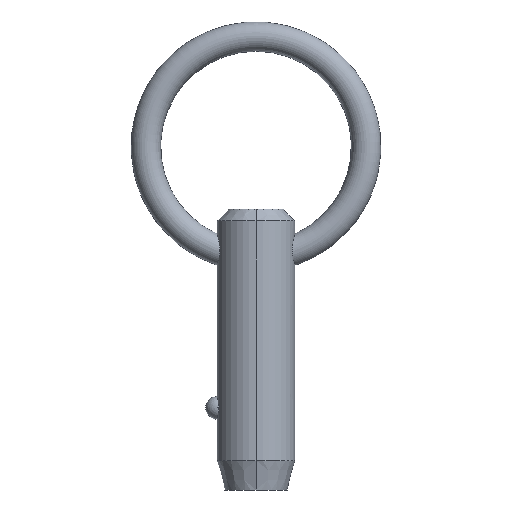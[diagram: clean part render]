
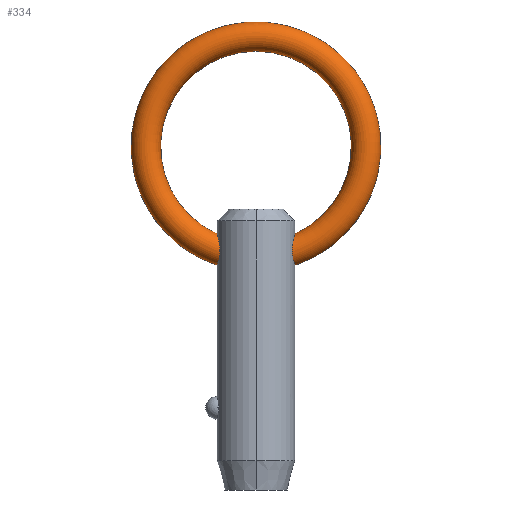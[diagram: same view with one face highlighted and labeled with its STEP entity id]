
A CAD part, left-side view. The second image highlights one B-rep face of the part: STEP entity #334.
In plain terms, the highlighted toroidal (fillet/blend) face has major radius 11.2 mm and minor radius 1.5 mm.
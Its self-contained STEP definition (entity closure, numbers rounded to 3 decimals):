
#4 = CARTESIAN_POINT ( 'NONE',  ( -0.99, 3.84, 16.092 ) ) ;
#11 = CARTESIAN_POINT ( 'NONE',  ( -1.508, 3.667, 14.697 ) ) ;
#15 = ORIENTED_EDGE ( 'NONE', *, *, #311, .F. ) ;
#16 = CARTESIAN_POINT ( 'NONE',  ( -0.406, 3.945, 13.383 ) ) ;
#18 = CARTESIAN_POINT ( 'NONE',  ( -0.785, 3.891, 13.527 ) ) ;
#20 = CARTESIAN_POINT ( 'NONE',  ( 0., 0., 25.4 ) ) ;
#25 = VERTEX_POINT ( 'NONE', #248 ) ;
#39 = EDGE_CURVE ( 'NONE', #204, #25, #76, .T. ) ;
#56 = CARTESIAN_POINT ( 'NONE',  ( 0., 0., 25.4 ) ) ;
#57 = CARTESIAN_POINT ( 'NONE',  ( 0., -3.965, 13.335 ) ) ;
#64 = AXIS2_PLACEMENT_3D ( 'NONE', #20, #272, #424 ) ;
#76 = B_SPLINE_CURVE_WITH_KNOTS ( 'NONE', 3,
 ( #477, #247, #480, #161, #285, #405, #4, #287, #81, #162, #448, #11, #135, #416, #332, #169, #336, #380, #18, #450, #16, #99, #495, #94 ),
 .UNSPECIFIED., .F., .F.,
 ( 4, 2, 2, 2, 2, 2, 2, 2, 2, 2, 2, 4 ),
 ( 0.006, 0.006, 0.007, 0.007, 0.007, 0.008, 0.009, 0.009, 0.009, 0.01, 0.01, 0.01 ),
 .UNSPECIFIED. ) ;
#81 = CARTESIAN_POINT ( 'NONE',  ( -1.29, 3.75, 15.686 ) ) ;
#85 = ORIENTED_EDGE ( 'NONE', *, *, #39, .F. ) ;
#93 = CIRCLE ( 'NONE', #314, 12.7 ) ;
#94 = CARTESIAN_POINT ( 'NONE',  ( 0., 3.965, 13.335 ) ) ;
#97 = CARTESIAN_POINT ( 'NONE',  ( -0.41, -3.948, 13.374 ) ) ;
#99 = CARTESIAN_POINT ( 'NONE',  ( -0.206, 3.961, 13.345 ) ) ;
#101 = CARTESIAN_POINT ( 'NONE',  ( -1.186, -3.786, 15.86 ) ) ;
#114 = B_SPLINE_CURVE_WITH_KNOTS ( 'NONE', 3,
 ( #57, #291, #97, #218, #181, #452, #146, #460, #389, #425, #225, #345, #185, #462, #101, #501, #273, #143, #428, #184, #222, #497 ),
 .UNSPECIFIED., .F., .F.,
 ( 4, 2, 2, 2, 2, 2, 2, 2, 2, 2, 4 ),
 ( 0.009, 0.01, 0.01, 0.011, 0.011, 0.012, 0.012, 0.013, 0.013, 0.014, 0.014 ),
 .UNSPECIFIED. ) ;
#135 = CARTESIAN_POINT ( 'NONE',  ( -1.481, 3.679, 14.491 ) ) ;
#143 = CARTESIAN_POINT ( 'NONE',  ( -0.498, -3.935, 16.444 ) ) ;
#146 = CARTESIAN_POINT ( 'NONE',  ( -1.229, -3.77, 13.939 ) ) ;
#161 = CARTESIAN_POINT ( 'NONE',  ( -0.678, 3.908, 16.349 ) ) ;
#162 = CARTESIAN_POINT ( 'NONE',  ( -1.442, 3.694, 15.306 ) ) ;
#167 = DIRECTION ( 'NONE',  ( 0., 0., -1. ) ) ;
#169 = CARTESIAN_POINT ( 'NONE',  ( -1.23, 3.77, 13.94 ) ) ;
#181 = CARTESIAN_POINT ( 'NONE',  ( -0.957, -3.85, 13.641 ) ) ;
#184 = CARTESIAN_POINT ( 'NONE',  ( -0.206, -3.961, 16.534 ) ) ;
#185 = CARTESIAN_POINT ( 'NONE',  ( -1.441, -3.695, 15.308 ) ) ;
#189 = EDGE_CURVE ( 'NONE', #485, #261, #114, .T. ) ;
#204 = VERTEX_POINT ( 'NONE', #235 ) ;
#210 = DIRECTION ( 'NONE',  ( 0., 0., -1. ) ) ;
#218 = CARTESIAN_POINT ( 'NONE',  ( -0.788, -3.891, 13.528 ) ) ;
#222 = CARTESIAN_POINT ( 'NONE',  ( -0.102, -3.965, 16.547 ) ) ;
#225 = CARTESIAN_POINT ( 'NONE',  ( -1.508, -3.667, 14.697 ) ) ;
#235 = CARTESIAN_POINT ( 'NONE',  ( 0., 3.965, 16.547 ) ) ;
#240 = ORIENTED_EDGE ( 'NONE', *, *, #463, .T. ) ;
#247 = CARTESIAN_POINT ( 'NONE',  ( -0.206, 3.965, 16.547 ) ) ;
#248 = CARTESIAN_POINT ( 'NONE',  ( 0., 3.965, 13.335 ) ) ;
#261 = VERTEX_POINT ( 'NONE', #381 ) ;
#272 = DIRECTION ( 'NONE',  ( 1., 0., 0. ) ) ;
#273 = CARTESIAN_POINT ( 'NONE',  ( -0.77, -3.894, 16.3 ) ) ;
#285 = CARTESIAN_POINT ( 'NONE',  ( -0.763, 3.892, 16.291 ) ) ;
#287 = CARTESIAN_POINT ( 'NONE',  ( -1.186, 3.786, 15.86 ) ) ;
#291 = CARTESIAN_POINT ( 'NONE',  ( -0.205, -3.965, 13.335 ) ) ;
#298 = TOROIDAL_SURFACE ( 'NONE', #402, 11.2, 1.5 ) ;
#303 = CIRCLE ( 'NONE', #64, 9.7 ) ;
#311 = EDGE_CURVE ( 'NONE', #25, #485, #93, .T. ) ;
#314 = AXIS2_PLACEMENT_3D ( 'NONE', #414, #327, #210 ) ;
#320 = FACE_OUTER_BOUND ( 'NONE', #362, .T. ) ;
#327 = DIRECTION ( 'NONE',  ( 1., 0., 0. ) ) ;
#330 = DIRECTION ( 'NONE',  ( 1., 0., 0. ) ) ;
#332 = CARTESIAN_POINT ( 'NONE',  ( -1.336, 3.734, 14.112 ) ) ;
#334 = ADVANCED_FACE ( 'NONE', ( #320 ), #298, .T. ) ;
#336 = CARTESIAN_POINT ( 'NONE',  ( -1.167, 3.79, 13.859 ) ) ;
#345 = CARTESIAN_POINT ( 'NONE',  ( -1.488, -3.675, 15.105 ) ) ;
#362 = EDGE_LOOP ( 'NONE', ( #15, #85, #240, #473 ) ) ;
#380 = CARTESIAN_POINT ( 'NONE',  ( -0.958, 3.85, 13.643 ) ) ;
#381 = CARTESIAN_POINT ( 'NONE',  ( 0., -3.965, 16.547 ) ) ;
#389 = CARTESIAN_POINT ( 'NONE',  ( -1.379, -3.718, 14.203 ) ) ;
#392 = CARTESIAN_POINT ( 'NONE',  ( 0., -3.965, 13.335 ) ) ;
#402 = AXIS2_PLACEMENT_3D ( 'NONE', #56, #330, #167 ) ;
#405 = CARTESIAN_POINT ( 'NONE',  ( -0.919, 3.858, 16.163 ) ) ;
#414 = CARTESIAN_POINT ( 'NONE',  ( 0., 0., 25.4 ) ) ;
#416 = CARTESIAN_POINT ( 'NONE',  ( -1.379, 3.718, 14.202 ) ) ;
#424 = DIRECTION ( 'NONE',  ( 0., 0., -1. ) ) ;
#425 = CARTESIAN_POINT ( 'NONE',  ( -1.48, -3.679, 14.489 ) ) ;
#428 = CARTESIAN_POINT ( 'NONE',  ( -0.403, -3.946, 16.482 ) ) ;
#448 = CARTESIAN_POINT ( 'NONE',  ( -1.488, 3.675, 15.109 ) ) ;
#450 = CARTESIAN_POINT ( 'NONE',  ( -0.503, 3.934, 13.412 ) ) ;
#452 = CARTESIAN_POINT ( 'NONE',  ( -1.168, -3.79, 13.859 ) ) ;
#460 = CARTESIAN_POINT ( 'NONE',  ( -1.335, -3.734, 14.11 ) ) ;
#462 = CARTESIAN_POINT ( 'NONE',  ( -1.29, -3.75, 15.685 ) ) ;
#463 = EDGE_CURVE ( 'NONE', #204, #261, #303, .T. ) ;
#473 = ORIENTED_EDGE ( 'NONE', *, *, #189, .F. ) ;
#477 = CARTESIAN_POINT ( 'NONE',  ( 0., 3.965, 16.547 ) ) ;
#480 = CARTESIAN_POINT ( 'NONE',  ( -0.409, 3.948, 16.492 ) ) ;
#485 = VERTEX_POINT ( 'NONE', #392 ) ;
#495 = CARTESIAN_POINT ( 'NONE',  ( -0.102, 3.965, 13.335 ) ) ;
#497 = CARTESIAN_POINT ( 'NONE',  ( 0., -3.965, 16.547 ) ) ;
#501 = CARTESIAN_POINT ( 'NONE',  ( -0.925, -3.858, 16.168 ) ) ;
